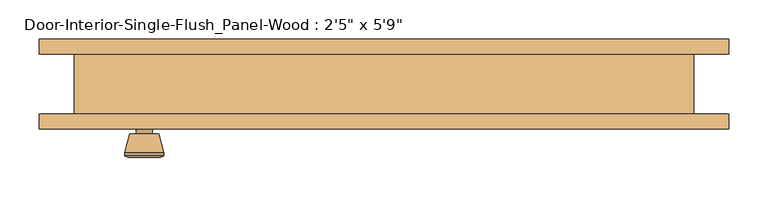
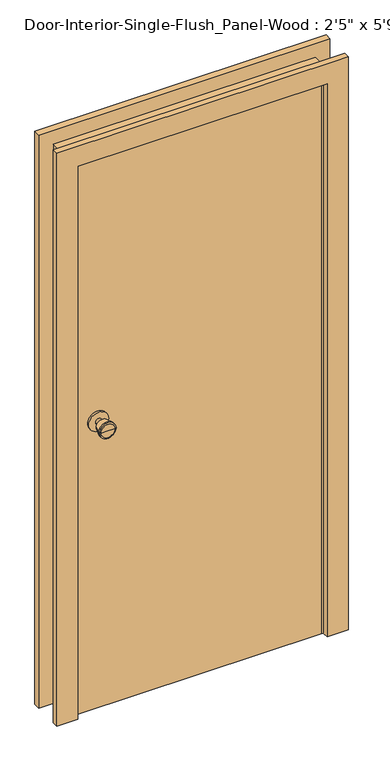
"""IFC4 building model written with IfcOpenShell, lengths in millimetres: door geometry."""

from ifc_helpers import new_model, si_unit, point, frame, frame_2d, origin, origin_with_axes, place, context, project, spatial, polyline, circle_curve, trimmed, segment, composite_curve, outline, extrude, faceted_brep, source, transform, mapped, element, save
from ifc_brep_helpers import plane_surface, cylinder_surface, revolved_surface, advanced_brep


def door_880b1680(model_context):
    return source(origin(), model_context, "Body", "SolidModel", [
        advanced_brep(
        [(-304.8, 6.0, 914.4), (-314.8, 6.0, 914.4), (-294.8, 6.0, 914.4), (-284.3241324, 55.0, 914.4), (-325.2758676, 55.0, 914.4), (-304.8, 55.0, 914.4), (-279.8, 53.1721319, 914.4), (-329.8, 53.1721319, 914.4), (-279.8, 49.7084537, 914.4), (-329.8, 49.7084537, 914.4), (-286.163764, 25.0, 914.4), (-323.436236, 25.0, 914.4), (-294.8, 25.0, 914.4), (-314.8, 25.0, 914.4)],
        [
            (0, 1),
            (1, 2, circle_curve(frame((-304.8, 6.0, 914.4), z_axis=(0.0, -1.0, 0.0), x_axis=(-1.0, 0.0, 0.0)), 10.0)),
            (2, 0),
            (2, 1, circle_curve(frame((-304.8, 6.0, 914.4), z_axis=(0.0, -1.0, 0.0), x_axis=(-1.0, 0.0, 0.0)), 10.0)),
            (3, 4, circle_curve(frame((-304.8, 55.0, 914.4), z_axis=(0.0, 1.0, 0.0), x_axis=(-1.0, 0.0, 0.0)), 20.4758676)),
            (4, 5),
            (5, 3),
            (4, 3, circle_curve(frame((-304.8, 55.0, 914.4), z_axis=(0.0, 1.0, 0.0), x_axis=(-1.0, 0.0, 0.0)), 20.4758676)),
            (6, 7, circle_curve(frame((-304.8, 53.1721319, 914.4), z_axis=(0.0, 1.0, 0.0), x_axis=(-1.0, 0.0, 0.0)), 25.0)),
            (7, 4),
            (3, 6),
            (7, 6, circle_curve(frame((-304.8, 53.1721319, 914.4), z_axis=(0.0, 1.0, 0.0), x_axis=(-1.0, 0.0, 0.0)), 25.0)),
            (8, 9, circle_curve(frame((-304.8, 49.7084537, 914.4), z_axis=(0.0, 1.0, 0.0), x_axis=(-1.0, 0.0, 0.0)), 25.0)),
            (9, 7),
            (6, 8),
            (9, 8, circle_curve(frame((-304.8, 49.7084537, 914.4), z_axis=(0.0, 1.0, 0.0), x_axis=(-1.0, 0.0, 0.0)), 25.0)),
            (10, 11, circle_curve(frame((-304.8, 25.0, 914.4), z_axis=(0.0, 1.0, 0.0), x_axis=(-1.0, 0.0, 0.0)), 18.636236)),
            (11, 9),
            (8, 10),
            (11, 10, circle_curve(frame((-304.8, 25.0, 914.4), z_axis=(0.0, 1.0, 0.0), x_axis=(-1.0, 0.0, 0.0)), 18.636236)),
            (12, 13, circle_curve(frame((-304.8, 25.0, 914.4), z_axis=(0.0, 1.0, 0.0), x_axis=(-1.0, 0.0, 0.0)), 10.0)),
            (13, 11),
            (10, 12),
            (13, 12, circle_curve(frame((-304.8, 25.0, 914.4), z_axis=(0.0, 1.0, 0.0), x_axis=(-1.0, 0.0, 0.0)), 10.0)),
            (1, 13),
            (12, 2),
        ],
        [
            plane_surface(frame((-304.8, 6.0, 914.4), z_axis=(0.0, -1.0, 0.0), x_axis=(-1.0, 0.0, 0.0))),
            plane_surface(frame((-304.8, 55.0, 914.4), z_axis=(0.0, 1.0, 0.0), x_axis=(-1.0, 0.0, 0.0))),
            revolved_surface(polyline([(-325.2758676, 55.0, 914.4), (-329.8, 53.1721319, 914.4)]), (-304.8, 6.0, 914.4), (0.0, -1.0, 0.0)),
            cylinder_surface(frame((-304.8, 6.0, 914.4), z_axis=(0.0, -1.0, 0.0), x_axis=(-1.0, 0.0, 0.0)), 25.0),
            revolved_surface(polyline([(-329.8, 49.7084537, 914.4), (-323.436236, 25.0, 914.4)]), (-304.8, 6.0, 914.4), (0.0, -1.0, 0.0)),
            plane_surface(frame((-304.8, 25.0, 914.4), z_axis=(0.0, -1.0, 0.0), x_axis=(-1.0, 0.0, 0.0))),
            cylinder_surface(frame((-304.8, 6.0, 914.4), z_axis=(0.0, -1.0, 0.0), x_axis=(-1.0, 0.0, 0.0)), 10.0),
        ],
        [
            (0, [[1, 2, 3]]),
            (0, [[-3, 4, -1]]),
            (1, [[5, 6, 7]]),
            (1, [[8, -7, -6]]),
            (2, [[9, 10, -5, 11]]),
            (2, [[12, -11, -8, -10]]),
            (3, [[13, 14, -9, 15]]),
            (3, [[16, -15, -12, -14]]),
            (4, [[17, 18, -13, 19]]),
            (4, [[20, -19, -16, -18]]),
            (5, [[21, 22, -17, 23]]),
            (5, [[24, -23, -20, -22]]),
            (6, [[-2, 25, -21, 26]]),
            (6, [[-4, -26, -24, -25]]),
        ],
    ),
        extrude(outline(composite_curve([segment(trimmed(circle_curve(frame_2d((914.4, -304.8)), 30.0), [point((914.4, -334.8))], [point((914.4, -274.8))], False, "CARTESIAN"), True, "CONTINUOUS"), segment(trimmed(circle_curve(frame_2d((914.4, -304.8)), 30.0), [point((914.4, -274.8))], [point((914.4, -334.8))], False, "CARTESIAN"), True, "CONTINUOUS")], self_intersect=False)), frame((0.0, 0.0, 0.0), z_axis=(0.0, 1.0, 0.0), x_axis=(0.0, 0.0, 1.0)), (0.0, 0.0, 1.0), 6.0),
        advanced_brep(
        [(-304.8, -40.925, 914.4), (-294.8, -40.925, 914.4), (-314.8, -40.925, 914.4), (-284.3241324, -89.925, 914.4), (-304.8, -89.925, 914.4), (-325.2758676, -89.925, 914.4), (-279.8, -88.0971319, 914.4), (-329.8, -88.0971319, 914.4), (-279.8, -84.6334537, 914.4), (-329.8, -84.6334537, 914.4), (-286.163764, -59.925, 914.4), (-323.436236, -59.925, 914.4), (-294.8, -59.925, 914.4), (-314.8, -59.925, 914.4)],
        [
            (0, 1),
            (1, 2, circle_curve(frame((-304.8, -40.925, 914.4), z_axis=(0.0, 1.0, 0.0), x_axis=(-1.0, 0.0, 0.0)), 10.0)),
            (2, 0),
            (2, 1, circle_curve(frame((-304.8, -40.925, 914.4), z_axis=(0.0, 1.0, 0.0), x_axis=(-1.0, 0.0, 0.0)), 10.0)),
            (3, 4),
            (4, 5),
            (5, 3, circle_curve(frame((-304.8, -89.925, 914.4), z_axis=(0.0, -1.0, 0.0), x_axis=(-1.0, 0.0, 0.0)), 20.4758676)),
            (3, 5, circle_curve(frame((-304.8, -89.925, 914.4), z_axis=(0.0, -1.0, 0.0), x_axis=(-1.0, 0.0, 0.0)), 20.4758676)),
            (6, 3),
            (5, 7),
            (7, 6, circle_curve(frame((-304.8, -88.0971319, 914.4), z_axis=(0.0, -1.0, 0.0), x_axis=(-1.0, 0.0, 0.0)), 25.0)),
            (6, 7, circle_curve(frame((-304.8, -88.0971319, 914.4), z_axis=(0.0, -1.0, 0.0), x_axis=(-1.0, 0.0, 0.0)), 25.0)),
            (8, 6),
            (7, 9),
            (9, 8, circle_curve(frame((-304.8, -84.6334537, 914.4), z_axis=(0.0, -1.0, 0.0), x_axis=(-1.0, 0.0, 0.0)), 25.0)),
            (8, 9, circle_curve(frame((-304.8, -84.6334537, 914.4), z_axis=(0.0, -1.0, 0.0), x_axis=(-1.0, 0.0, 0.0)), 25.0)),
            (10, 8),
            (9, 11),
            (11, 10, circle_curve(frame((-304.8, -59.925, 914.4), z_axis=(0.0, -1.0, 0.0), x_axis=(-1.0, 0.0, 0.0)), 18.636236)),
            (10, 11, circle_curve(frame((-304.8, -59.925, 914.4), z_axis=(0.0, -1.0, 0.0), x_axis=(-1.0, 0.0, 0.0)), 18.636236)),
            (12, 10),
            (11, 13),
            (13, 12, circle_curve(frame((-304.8, -59.925, 914.4), z_axis=(0.0, -1.0, 0.0), x_axis=(-1.0, 0.0, 0.0)), 10.0)),
            (12, 13, circle_curve(frame((-304.8, -59.925, 914.4), z_axis=(0.0, -1.0, 0.0), x_axis=(-1.0, 0.0, 0.0)), 10.0)),
            (1, 12),
            (13, 2),
        ],
        [
            plane_surface(frame((-304.8, -40.925, 914.4), z_axis=(0.0, 1.0, 0.0), x_axis=(-1.0, 0.0, 0.0))),
            plane_surface(frame((-304.8, -89.925, 914.4), z_axis=(0.0, -1.0, 0.0), x_axis=(-1.0, 0.0, 0.0))),
            revolved_surface(polyline([(-325.2758676, -89.925, 914.4), (-329.8, -88.0971319, 914.4)]), (-304.8, -40.925, 914.4), (0.0, 1.0, 0.0)),
            cylinder_surface(frame((-304.8, -40.925, 914.4), z_axis=(0.0, 1.0, 0.0), x_axis=(-1.0, 0.0, 0.0)), 25.0),
            revolved_surface(polyline([(-329.8, -84.6334537, 914.4), (-323.436236, -59.925, 914.4)]), (-304.8, -40.925, 914.4), (0.0, 1.0, 0.0)),
            plane_surface(frame((-304.8, -59.925, 914.4), z_axis=(0.0, 1.0, 0.0), x_axis=(-1.0, 0.0, 0.0))),
            cylinder_surface(frame((-304.8, -40.925, 914.4), z_axis=(0.0, 1.0, 0.0), x_axis=(-1.0, 0.0, 0.0)), 10.0),
        ],
        [
            (0, [[1, 2, 3]]),
            (0, [[-3, 4, -1]]),
            (1, [[5, 6, 7]]),
            (1, [[-6, -5, 8]]),
            (2, [[9, -7, 10, 11]]),
            (2, [[-10, -8, -9, 12]]),
            (3, [[13, -11, 14, 15]]),
            (3, [[-14, -12, -13, 16]]),
            (4, [[17, -15, 18, 19]]),
            (4, [[-18, -16, -17, 20]]),
            (5, [[21, -19, 22, 23]]),
            (5, [[-22, -20, -21, 24]]),
            (6, [[25, -23, 26, -2]]),
            (6, [[-26, -24, -25, -4]]),
        ],
    ),
        extrude(outline(composite_curve([segment(trimmed(circle_curve(frame_2d((914.4, -304.8)), 30.0), [point((914.4, -334.8))], [point((914.4, -274.8))], False, "CARTESIAN"), True, "CONTINUOUS"), segment(trimmed(circle_curve(frame_2d((914.4, -304.8)), 30.0), [point((914.4, -274.8))], [point((914.4, -334.8))], False, "CARTESIAN"), True, "CONTINUOUS")], self_intersect=False)), frame((0.0, -40.925, 0.0), z_axis=(0.0, 1.0, 0.0), x_axis=(0.0, 0.0, 1.0)), (0.0, 0.0, 1.0), 6.0),
        extrude(outline(polyline([(368.3, 0.0), (368.3, -34.925), (-368.3, -34.925), (-368.3, 0.0), (368.3, 0.0)])), origin_with_axes(), (0.0, 0.0, 1.0), 1752.6),
        faceted_brep([(393.7, -34.925, 0.0), (368.3, -34.925, 0.0), (368.3, 0.0, 0.0), (355.6, 0.0, 0.0), (355.6, 34.925, 0.0), (368.3, 34.925, 0.0), (368.3, 41.275, 0.0), (393.7, 41.275, 0.0), (393.7, 41.275, 1778.0), (393.7, -34.925, 1778.0), (368.3, 41.275, 1752.6), (-368.3, 41.275, 1752.6), (-368.3, 41.275, 0.0), (-393.7, 41.275, 0.0), (-393.7, 41.275, 1778.0), (368.3, 34.925, 1752.6), (355.6, 34.925, 1739.9), (-355.6, 34.925, 1739.9), (-355.6, 34.925, 0.0), (-368.3, 34.925, 0.0), (-368.3, 34.925, 1752.6), (355.6, 0.0, 1739.9), (368.3, 0.0, 1752.6), (-368.3, 0.0, 1752.6), (-368.3, 0.0, 0.0), (-355.6, 0.0, 0.0), (-355.6, 0.0, 1739.9), (368.3, -34.925, 1752.6), (-393.7, -34.925, 1778.0), (-393.7, -34.925, 0.0), (-368.3, -34.925, 0.0), (-368.3, -34.925, 1752.6)], [[[0, 1, 2, 3, 4, 5, 6, 7]], [[7, 8, 9, 0]], [[6, 10, 11, 12, 13, 14, 8, 7]], [[5, 15, 10, 6]], [[4, 16, 17, 18, 19, 20, 15, 5]], [[3, 21, 16, 4]], [[2, 22, 23, 24, 25, 26, 21, 3]], [[1, 27, 22, 2]], [[0, 9, 28, 29, 30, 31, 27, 1]], [[8, 14, 28, 9]], [[15, 20, 11, 10]], [[21, 26, 17, 16]], [[27, 31, 23, 22]], [[29, 13, 12, 19, 18, 25, 24, 30]], [[14, 13, 29, 28]], [[20, 19, 12, 11]], [[26, 25, 18, 17]], [[31, 30, 24, 23]]]),
        extrude(outline(polyline([(0.0, 438.15), (1822.45, 438.15), (1822.45, -438.15), (0.0, -438.15), (0.0, -374.65), (1758.95, -374.65), (1758.95, 374.65), (0.0, 374.65), (0.0, 438.15)])), frame((0.0, 41.275, 0.0), z_axis=(0.0, 1.0, 0.0), x_axis=(0.0, 0.0, 1.0)), (0.0, 0.0, 1.0), 19.05),
        extrude(outline(polyline([(0.0, 438.15), (1822.45, 438.15), (1822.45, -438.15), (0.0, -438.15), (0.0, -374.65), (1758.95, -374.65), (1758.95, 374.65), (0.0, 374.65), (0.0, 438.15)])), frame((0.0, -53.975, 0.0), z_axis=(0.0, 1.0, 0.0), x_axis=(0.0, 0.0, 1.0)), (0.0, 0.0, 1.0), 19.05),
    ])


if __name__ == "__main__":
    model = new_model("IFC4")
    model_context = context("Model", 3, world=origin())
    ifc_project = project(units=[si_unit("LENGTHUNIT", "METRE", prefix="MILLI")], contexts=[model_context])
    site = spatial("IfcSite", under=ifc_project)
    building = spatial("IfcBuilding", under=site)
    placement = place(None, origin())
    door_shape = door_880b1680(model_context)
    element("IfcDoor", 1, ObjectType="Door-Interior-Single-Flush_Panel-Wood : 2'5\" x 5'9\"", at=placement, inside=building, context=model_context, shape_type="MappedRepresentation", body=[
        mapped(door_shape, transform((0.0, 0.0, 0.0), x_axis=(1.0, 0.0, 0.0), y_axis=(0.0, 1.0, 0.0), z_axis=(0.0, 0.0, 1.0))),
    ])
    save(model, "model.ifc")
